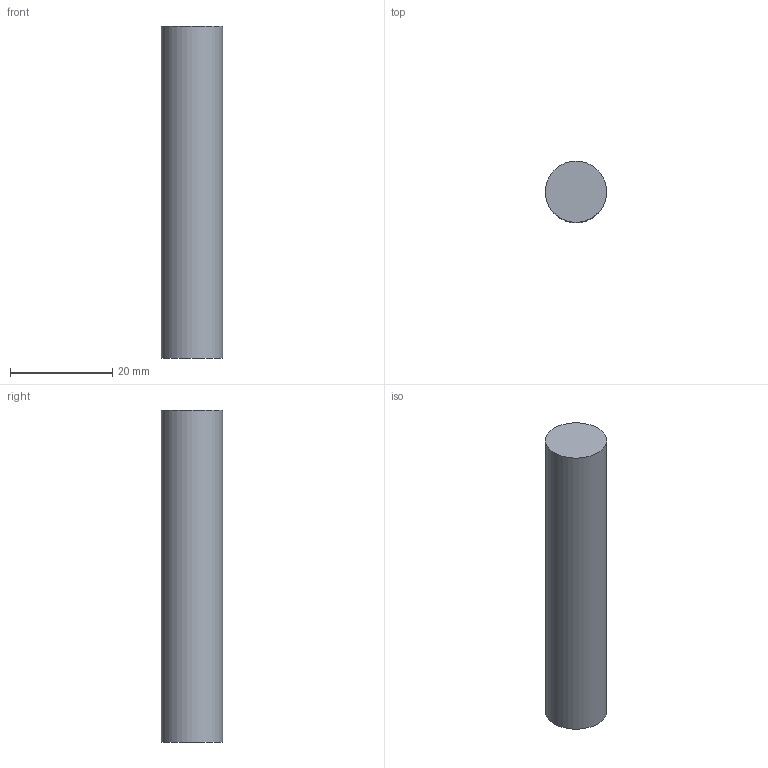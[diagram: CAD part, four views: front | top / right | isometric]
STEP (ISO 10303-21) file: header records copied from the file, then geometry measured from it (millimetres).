
FILE_DESCRIPTION(('Open CASCADE Model'),'2;1');
FILE_NAME('Open CASCADE Shape Model','2026-10-04T02:31:34',('Author'),( 'Open CASCADE'),'Open CASCADE STEP processor 8.0','Open CASCADE 8.0' ,'Unknown');
FILE_SCHEMA(('AUTOMOTIVE_DESIGN { 1 0 10303 214 1 1 1 1 }'));
Length unit declared in the file: millimetre
Products named in the file (1): Open CASCADE STEP translator 8.0 21
Bounding box: 12 x 12 x 65 mm (x, y, z)
Volume: 7351.3 mm3; surface area: 2676.6 mm2
Topology: 1 solids, 1 shells, 3 faces, 3 edges, 2 vertices
Faces by surface type: plane 2, cylinder 1
Full cylindrical faces by diameter (mm): 12 x1
Entity records: 108 total; most frequent: DIRECTION 19, CARTESIAN_POINT 15, AXIS2_PLACEMENT_3D 6, ORIENTED_EDGE 6, PCURVE 6, DEFINITIONAL_REPRESENTATION 6, LINE 5, VECTOR 5
